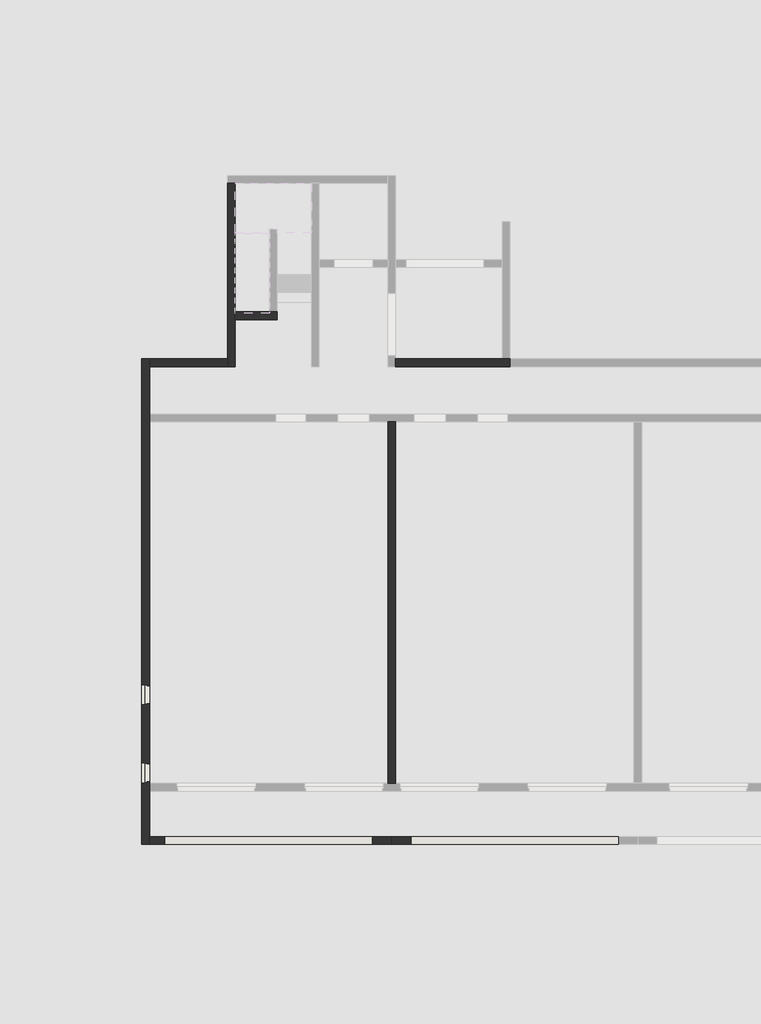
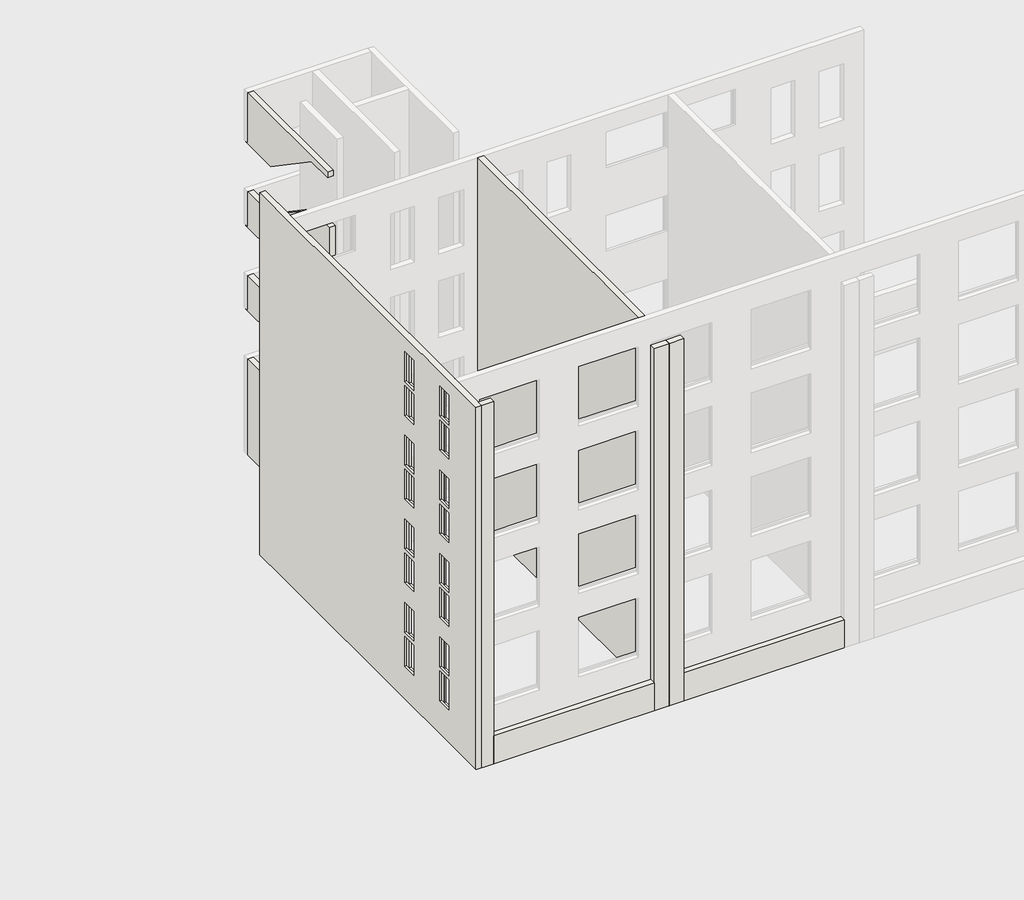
# One storey, part 1 of 5: 11 walls.
"""IFC4 building model written with IfcOpenShell, lengths in millimetres."""

from ifc_helpers import new_model, si_unit, frame, origin, origin_with_axes, place, context, project, spatial, polyline, outline, extrude, faceted_brep, element, save

model = new_model("IFC4")

# Units and contexts
model_context = context("Model", 3, world=origin())
ifc_project = project(units=[si_unit("LENGTHUNIT", "METRE", prefix="MILLI")], contexts=[model_context])

# Site, building, storey
site = spatial("IfcSite", under=ifc_project)
building = spatial("IfcBuilding", under=site)
storey = spatial("IfcBuildingStorey", under=building, Name="設計GL", Elevation=0.0)

# Walls
placement = place(None, origin())
element("IfcWall", 1, ObjectType="(R)RC200", at=placement, inside=storey, context=model_context, shape_type="Brep", body=[
    faceted_brep([(-11078.7187246, -16870.1171638, -1200.0), (-11078.7187246, -16670.1171638, -1200.0), (-11078.7187246, -15470.1171638, -1200.0), (-11078.7187246, -15270.1171638, -1200.0), (-11078.7187246, -5800.1171638, -1200.0), (-11078.7187246, -5600.1171638, -1200.0), (-11078.7187246, -4150.1171638, -1200.0), (-11078.7187246, -4150.1171638, 0.0), (-11078.7187246, -4150.1171638, 2100.0), (-11078.7187246, -4150.1171638, 3800.0), (-11078.7187246, -4150.1171638, 5100.0), (-11078.7187246, -4150.1171638, 6800.0), (-11078.7187246, -4150.1171638, 8100.0), (-11078.7187246, -4150.1171638, 9800.0), (-11078.7187246, -4150.1171638, 11100.0), (-11078.7187246, -4150.1171638, 13000.0), (-11078.7187246, -5600.1171638, 13000.0), (-11078.7187246, -5800.1171638, 13000.0), (-11078.7187246, -9720.1171638, 13000.0), (-11078.7187246, -9920.1171638, 13000.0), (-11078.7187246, -15270.1171638, 13000.0), (-11078.7187246, -15470.1171638, 13000.0), (-11078.7187246, -16670.1171638, 13000.0), (-11078.7187246, -16870.1171638, 13000.0), (-11078.7187246, -14760.1171638, 1085.0), (-11078.7187246, -15230.1171638, 1085.0), (-11078.7187246, -15230.1171638, 2220.0), (-11078.7187246, -14760.1171638, 2220.0), (-11078.7187246, -12710.1171638, 1085.0), (-11078.7187246, -13180.1171638, 1085.0), (-11078.7187246, -13180.1171638, 2220.0), (-11078.7187246, -12710.1171638, 2220.0), (-11078.7187246, -12710.1171638, 2305.0), (-11078.7187246, -13180.1171638, 2305.0), (-11078.7187246, -13180.1171638, 3440.0), (-11078.7187246, -12710.1171638, 3440.0), (-11078.7187246, -14760.1171638, 2305.0), (-11078.7187246, -15230.1171638, 2305.0), (-11078.7187246, -15230.1171638, 3440.0), (-11078.7187246, -14760.1171638, 3440.0), (-11078.7187246, -12710.1171638, 5305.0), (-11078.7187246, -13180.1171638, 5305.0), (-11078.7187246, -13180.1171638, 6440.0), (-11078.7187246, -12710.1171638, 6440.0), (-11078.7187246, -14760.1171638, 5305.0), (-11078.7187246, -15230.1171638, 5305.0), (-11078.7187246, -15230.1171638, 6440.0), (-11078.7187246, -14760.1171638, 6440.0), (-11078.7187246, -12710.1171638, 4085.0), (-11078.7187246, -13180.1171638, 4085.0), (-11078.7187246, -13180.1171638, 5220.0), (-11078.7187246, -12710.1171638, 5220.0), (-11078.7187246, -14760.1171638, 4085.0), (-11078.7187246, -15230.1171638, 4085.0), (-11078.7187246, -15230.1171638, 5220.0), (-11078.7187246, -14760.1171638, 5220.0), (-11078.7187246, -12710.1171638, 8305.0), (-11078.7187246, -13180.1171638, 8305.0), (-11078.7187246, -13180.1171638, 9440.0), (-11078.7187246, -12710.1171638, 9440.0), (-11078.7187246, -14760.1171638, 8305.0), (-11078.7187246, -15230.1171638, 8305.0), (-11078.7187246, -15230.1171638, 9440.0), (-11078.7187246, -14760.1171638, 9440.0), (-11078.7187246, -12710.1171638, 7085.0), (-11078.7187246, -13180.1171638, 7085.0), (-11078.7187246, -13180.1171638, 8220.0), (-11078.7187246, -12710.1171638, 8220.0), (-11078.7187246, -14760.1171638, 7085.0), (-11078.7187246, -15230.1171638, 7085.0), (-11078.7187246, -15230.1171638, 8220.0), (-11078.7187246, -14760.1171638, 8220.0), (-11078.7187246, -12710.1171638, 11305.0), (-11078.7187246, -13180.1171638, 11305.0), (-11078.7187246, -13180.1171638, 12440.0), (-11078.7187246, -12710.1171638, 12440.0), (-11078.7187246, -14760.1171638, 11305.0), (-11078.7187246, -15230.1171638, 11305.0), (-11078.7187246, -15230.1171638, 12440.0), (-11078.7187246, -14760.1171638, 12440.0), (-11078.7187246, -12710.1171638, 10085.0), (-11078.7187246, -13180.1171638, 10085.0), (-11078.7187246, -13180.1171638, 11220.0), (-11078.7187246, -12710.1171638, 11220.0), (-11078.7187246, -14760.1171638, 10085.0), (-11078.7187246, -15230.1171638, 10085.0), (-11078.7187246, -15230.1171638, 11220.0), (-11078.7187246, -14760.1171638, 11220.0), (-11278.7187246, -16870.1171638, -1200.0), (-11278.7187246, -16870.1171638, 13000.0), (-11278.7187246, -4150.1171638, 13000.0), (-11278.7187246, -4150.1171638, -1200.0), (-11278.7187246, -15260.1171638, 2245.0), (-11278.7187246, -15260.1171638, 1175.0), (-11278.7187246, -14730.1171638, 1175.0), (-11278.7187246, -14730.1171638, 2245.0), (-11278.7187246, -13210.1171638, 2245.0), (-11278.7187246, -13210.1171638, 1175.0), (-11278.7187246, -12680.1171638, 1175.0), (-11278.7187246, -12680.1171638, 2245.0), (-11278.7187246, -12680.1171638, 2395.0), (-11278.7187246, -12680.1171638, 3465.0), (-11278.7187246, -13210.1171638, 3465.0), (-11278.7187246, -13210.1171638, 2395.0), (-11278.7187246, -14730.1171638, 2395.0), (-11278.7187246, -14730.1171638, 3465.0), (-11278.7187246, -15260.1171638, 3465.0), (-11278.7187246, -15260.1171638, 2395.0), (-11278.7187246, -12680.1171638, 5395.0), (-11278.7187246, -12680.1171638, 6465.0), (-11278.7187246, -13210.1171638, 6465.0), (-11278.7187246, -13210.1171638, 5395.0), (-11278.7187246, -14730.1171638, 5395.0), (-11278.7187246, -14730.1171638, 6465.0), (-11278.7187246, -15260.1171638, 6465.0), (-11278.7187246, -15260.1171638, 5395.0), (-11278.7187246, -13210.1171638, 5245.0), (-11278.7187246, -13210.1171638, 4175.0), (-11278.7187246, -12680.1171638, 4175.0), (-11278.7187246, -12680.1171638, 5245.0), (-11278.7187246, -15260.1171638, 5245.0), (-11278.7187246, -15260.1171638, 4175.0), (-11278.7187246, -14730.1171638, 4175.0), (-11278.7187246, -14730.1171638, 5245.0), (-11278.7187246, -12680.1171638, 8395.0), (-11278.7187246, -12680.1171638, 9465.0), (-11278.7187246, -13210.1171638, 9465.0), (-11278.7187246, -13210.1171638, 8395.0), (-11278.7187246, -14730.1171638, 8395.0), (-11278.7187246, -14730.1171638, 9465.0), (-11278.7187246, -15260.1171638, 9465.0), (-11278.7187246, -15260.1171638, 8395.0), (-11278.7187246, -13210.1171638, 8245.0), (-11278.7187246, -13210.1171638, 7175.0), (-11278.7187246, -12680.1171638, 7175.0), (-11278.7187246, -12680.1171638, 8245.0), (-11278.7187246, -15260.1171638, 8245.0), (-11278.7187246, -15260.1171638, 7175.0), (-11278.7187246, -14730.1171638, 7175.0), (-11278.7187246, -14730.1171638, 8245.0), (-11278.7187246, -12680.1171638, 11395.0), (-11278.7187246, -12680.1171638, 12465.0), (-11278.7187246, -13210.1171638, 12465.0), (-11278.7187246, -13210.1171638, 11395.0), (-11278.7187246, -14730.1171638, 11395.0), (-11278.7187246, -14730.1171638, 12465.0), (-11278.7187246, -15260.1171638, 12465.0), (-11278.7187246, -15260.1171638, 11395.0), (-11278.7187246, -13210.1171638, 11245.0), (-11278.7187246, -13210.1171638, 10175.0), (-11278.7187246, -12680.1171638, 10175.0), (-11278.7187246, -12680.1171638, 11245.0), (-11278.7187246, -15260.1171638, 11245.0), (-11278.7187246, -15260.1171638, 10175.0), (-11278.7187246, -14730.1171638, 10175.0), (-11278.7187246, -14730.1171638, 11245.0), (-11208.7187246, -15260.1171638, 2245.0), (-11208.7187246, -15260.1171638, 1175.0), (-11208.7187246, -14730.1171638, 1175.0), (-11208.7187246, -14730.1171638, 2245.0), (-11208.7187246, -15250.1171638, 1175.0), (-11208.7187246, -14740.1171638, 1175.0), (-11208.7187246, -14740.1171638, 2240.0), (-11208.7187246, -15250.1171638, 2240.0), (-11138.7187246, -15250.1171638, 2240.0), (-11138.7187246, -15250.1171638, 1094.2307692), (-11208.7187246, -15250.1171638, 1105.0), (-11208.7187246, -14740.1171638, 1105.0), (-11138.7187246, -14740.1171638, 1094.2307692), (-11138.7187246, -14740.1171638, 2240.0), (-11138.7187246, -15230.1171638, 1094.2307692), (-11138.7187246, -14760.1171638, 1094.2307692), (-11138.7187246, -14760.1171638, 2220.0), (-11138.7187246, -15230.1171638, 2220.0), (-11208.7187246, -13210.1171638, 2245.0), (-11208.7187246, -13210.1171638, 1175.0), (-11208.7187246, -12680.1171638, 1175.0), (-11208.7187246, -12680.1171638, 2245.0), (-11208.7187246, -13200.1171638, 1175.0), (-11208.7187246, -12690.1171638, 1175.0), (-11208.7187246, -12690.1171638, 2240.0), (-11208.7187246, -13200.1171638, 2240.0), (-11138.7187246, -13200.1171638, 2240.0), (-11138.7187246, -13200.1171638, 1094.2307692), (-11208.7187246, -13200.1171638, 1105.0), (-11208.7187246, -12690.1171638, 1105.0), (-11138.7187246, -12690.1171638, 1094.2307692), (-11138.7187246, -12690.1171638, 2240.0), (-11138.7187246, -13180.1171638, 1094.2307692), (-11138.7187246, -12710.1171638, 1094.2307692), (-11138.7187246, -12710.1171638, 2220.0), (-11138.7187246, -13180.1171638, 2220.0), (-11208.7187246, -12680.1171638, 3465.0), (-11208.7187246, -12680.1171638, 2395.0), (-11208.7187246, -13210.1171638, 2395.0), (-11208.7187246, -13210.1171638, 3465.0), (-11208.7187246, -13200.1171638, 2395.0), (-11208.7187246, -12690.1171638, 2395.0), (-11208.7187246, -12690.1171638, 3460.0), (-11208.7187246, -13200.1171638, 3460.0), (-11208.7187246, -12690.1171638, 2325.0), (-11138.7187246, -12690.1171638, 2314.2307692), (-11138.7187246, -12690.1171638, 3460.0), (-11208.7187246, -13200.1171638, 2325.0), (-11138.7187246, -13200.1171638, 3460.0), (-11138.7187246, -13200.1171638, 2314.2307692), (-11138.7187246, -13180.1171638, 2314.2307692), (-11138.7187246, -12710.1171638, 2314.2307692), (-11138.7187246, -12710.1171638, 3440.0), (-11138.7187246, -13180.1171638, 3440.0), (-11208.7187246, -14730.1171638, 3465.0), (-11208.7187246, -14730.1171638, 2395.0), (-11208.7187246, -15260.1171638, 2395.0), (-11208.7187246, -15260.1171638, 3465.0), (-11208.7187246, -15250.1171638, 2395.0), (-11208.7187246, -14740.1171638, 2395.0), (-11208.7187246, -14740.1171638, 3460.0), (-11208.7187246, -15250.1171638, 3460.0), (-11208.7187246, -14740.1171638, 2325.0), (-11138.7187246, -14740.1171638, 2314.2307692), (-11138.7187246, -14740.1171638, 3460.0), (-11208.7187246, -15250.1171638, 2325.0), (-11138.7187246, -15250.1171638, 3460.0), (-11138.7187246, -15250.1171638, 2314.2307692), (-11138.7187246, -15230.1171638, 2314.2307692), (-11138.7187246, -14760.1171638, 2314.2307692), (-11138.7187246, -14760.1171638, 3440.0), (-11138.7187246, -15230.1171638, 3440.0), (-11208.7187246, -12680.1171638, 6465.0), (-11208.7187246, -12680.1171638, 5395.0), (-11208.7187246, -13210.1171638, 5395.0), (-11208.7187246, -13210.1171638, 6465.0), (-11208.7187246, -13200.1171638, 5395.0), (-11208.7187246, -12690.1171638, 5395.0), (-11208.7187246, -12690.1171638, 6460.0), (-11208.7187246, -13200.1171638, 6460.0), (-11208.7187246, -12690.1171638, 5325.0), (-11138.7187246, -12690.1171638, 5314.2307692), (-11138.7187246, -12690.1171638, 6460.0), (-11208.7187246, -13200.1171638, 5325.0), (-11138.7187246, -13200.1171638, 6460.0), (-11138.7187246, -13200.1171638, 5314.2307692), (-11138.7187246, -13180.1171638, 5314.2307692), (-11138.7187246, -12710.1171638, 5314.2307692), (-11138.7187246, -12710.1171638, 6440.0), (-11138.7187246, -13180.1171638, 6440.0), (-11208.7187246, -14730.1171638, 6465.0), (-11208.7187246, -14730.1171638, 5395.0), (-11208.7187246, -15260.1171638, 5395.0), (-11208.7187246, -15260.1171638, 6465.0), (-11208.7187246, -15250.1171638, 5395.0), (-11208.7187246, -14740.1171638, 5395.0), (-11208.7187246, -14740.1171638, 6460.0), (-11208.7187246, -15250.1171638, 6460.0), (-11208.7187246, -14740.1171638, 5325.0), (-11138.7187246, -14740.1171638, 5314.2307692), (-11138.7187246, -14740.1171638, 6460.0), (-11208.7187246, -15250.1171638, 5325.0), (-11138.7187246, -15250.1171638, 6460.0), (-11138.7187246, -15250.1171638, 5314.2307692), (-11138.7187246, -15230.1171638, 5314.2307692), (-11138.7187246, -14760.1171638, 5314.2307692), (-11138.7187246, -14760.1171638, 6440.0), (-11138.7187246, -15230.1171638, 6440.0), (-11208.7187246, -13210.1171638, 5245.0), (-11208.7187246, -13210.1171638, 4175.0), (-11208.7187246, -12680.1171638, 4175.0), (-11208.7187246, -12680.1171638, 5245.0), (-11208.7187246, -13200.1171638, 4175.0), (-11208.7187246, -12690.1171638, 4175.0), (-11208.7187246, -12690.1171638, 5240.0), (-11208.7187246, -13200.1171638, 5240.0), (-11138.7187246, -13200.1171638, 5240.0), (-11138.7187246, -13200.1171638, 4094.2307692), (-11208.7187246, -13200.1171638, 4105.0), (-11208.7187246, -12690.1171638, 4105.0), (-11138.7187246, -12690.1171638, 4094.2307692), (-11138.7187246, -12690.1171638, 5240.0), (-11138.7187246, -13180.1171638, 4094.2307692), (-11138.7187246, -12710.1171638, 4094.2307692), (-11138.7187246, -12710.1171638, 5220.0), (-11138.7187246, -13180.1171638, 5220.0), (-11208.7187246, -15260.1171638, 5245.0), (-11208.7187246, -15260.1171638, 4175.0), (-11208.7187246, -14730.1171638, 4175.0), (-11208.7187246, -14730.1171638, 5245.0), (-11208.7187246, -15250.1171638, 4175.0), (-11208.7187246, -14740.1171638, 4175.0), (-11208.7187246, -14740.1171638, 5240.0), (-11208.7187246, -15250.1171638, 5240.0), (-11138.7187246, -15250.1171638, 5240.0), (-11138.7187246, -15250.1171638, 4094.2307692), (-11208.7187246, -15250.1171638, 4105.0), (-11208.7187246, -14740.1171638, 4105.0), (-11138.7187246, -14740.1171638, 4094.2307692), (-11138.7187246, -14740.1171638, 5240.0), (-11138.7187246, -15230.1171638, 4094.2307692), (-11138.7187246, -14760.1171638, 4094.2307692), (-11138.7187246, -14760.1171638, 5220.0), (-11138.7187246, -15230.1171638, 5220.0), (-11208.7187246, -12680.1171638, 9465.0), (-11208.7187246, -12680.1171638, 8395.0), (-11208.7187246, -13210.1171638, 8395.0), (-11208.7187246, -13210.1171638, 9465.0), (-11208.7187246, -13200.1171638, 8395.0), (-11208.7187246, -12690.1171638, 8395.0), (-11208.7187246, -12690.1171638, 9460.0), (-11208.7187246, -13200.1171638, 9460.0), (-11208.7187246, -12690.1171638, 8325.0), (-11138.7187246, -12690.1171638, 8314.2307692), (-11138.7187246, -12690.1171638, 9460.0), (-11208.7187246, -13200.1171638, 8325.0), (-11138.7187246, -13200.1171638, 9460.0), (-11138.7187246, -13200.1171638, 8314.2307692), (-11138.7187246, -13180.1171638, 8314.2307692), (-11138.7187246, -12710.1171638, 8314.2307692), (-11138.7187246, -12710.1171638, 9440.0), (-11138.7187246, -13180.1171638, 9440.0), (-11208.7187246, -14730.1171638, 9465.0), (-11208.7187246, -14730.1171638, 8395.0), (-11208.7187246, -15260.1171638, 8395.0), (-11208.7187246, -15260.1171638, 9465.0), (-11208.7187246, -15250.1171638, 8395.0), (-11208.7187246, -14740.1171638, 8395.0), (-11208.7187246, -14740.1171638, 9460.0), (-11208.7187246, -15250.1171638, 9460.0), (-11208.7187246, -14740.1171638, 8325.0), (-11138.7187246, -14740.1171638, 8314.2307692), (-11138.7187246, -14740.1171638, 9460.0), (-11208.7187246, -15250.1171638, 8325.0), (-11138.7187246, -15250.1171638, 9460.0), (-11138.7187246, -15250.1171638, 8314.2307692), (-11138.7187246, -15230.1171638, 8314.2307692), (-11138.7187246, -14760.1171638, 8314.2307692), (-11138.7187246, -14760.1171638, 9440.0), (-11138.7187246, -15230.1171638, 9440.0), (-11208.7187246, -13210.1171638, 8245.0), (-11208.7187246, -13210.1171638, 7175.0), (-11208.7187246, -12680.1171638, 7175.0), (-11208.7187246, -12680.1171638, 8245.0), (-11208.7187246, -13200.1171638, 7175.0), (-11208.7187246, -12690.1171638, 7175.0), (-11208.7187246, -12690.1171638, 8240.0), (-11208.7187246, -13200.1171638, 8240.0), (-11138.7187246, -13200.1171638, 8240.0), (-11138.7187246, -13200.1171638, 7094.2307692), (-11208.7187246, -13200.1171638, 7105.0), (-11208.7187246, -12690.1171638, 7105.0), (-11138.7187246, -12690.1171638, 7094.2307692), (-11138.7187246, -12690.1171638, 8240.0), (-11138.7187246, -13180.1171638, 7094.2307692), (-11138.7187246, -12710.1171638, 7094.2307692), (-11138.7187246, -12710.1171638, 8220.0), (-11138.7187246, -13180.1171638, 8220.0), (-11208.7187246, -15260.1171638, 8245.0), (-11208.7187246, -15260.1171638, 7175.0), (-11208.7187246, -14730.1171638, 7175.0), (-11208.7187246, -14730.1171638, 8245.0), (-11208.7187246, -15250.1171638, 7175.0), (-11208.7187246, -14740.1171638, 7175.0), (-11208.7187246, -14740.1171638, 8240.0), (-11208.7187246, -15250.1171638, 8240.0), (-11138.7187246, -15250.1171638, 8240.0), (-11138.7187246, -15250.1171638, 7094.2307692), (-11208.7187246, -15250.1171638, 7105.0), (-11208.7187246, -14740.1171638, 7105.0), (-11138.7187246, -14740.1171638, 7094.2307692), (-11138.7187246, -14740.1171638, 8240.0), (-11138.7187246, -15230.1171638, 7094.2307692), (-11138.7187246, -14760.1171638, 7094.2307692), (-11138.7187246, -14760.1171638, 8220.0), (-11138.7187246, -15230.1171638, 8220.0), (-11208.7187246, -12680.1171638, 12465.0), (-11208.7187246, -12680.1171638, 11395.0), (-11208.7187246, -13210.1171638, 11395.0), (-11208.7187246, -13210.1171638, 12465.0), (-11208.7187246, -13200.1171638, 11395.0), (-11208.7187246, -12690.1171638, 11395.0), (-11208.7187246, -12690.1171638, 12460.0), (-11208.7187246, -13200.1171638, 12460.0), (-11208.7187246, -12690.1171638, 11325.0), (-11138.7187246, -12690.1171638, 11314.2307692), (-11138.7187246, -12690.1171638, 12460.0), (-11208.7187246, -13200.1171638, 11325.0), (-11138.7187246, -13200.1171638, 12460.0), (-11138.7187246, -13200.1171638, 11314.2307692), (-11138.7187246, -13180.1171638, 11314.2307692), (-11138.7187246, -12710.1171638, 11314.2307692), (-11138.7187246, -12710.1171638, 12440.0), (-11138.7187246, -13180.1171638, 12440.0), (-11208.7187246, -14730.1171638, 12465.0), (-11208.7187246, -14730.1171638, 11395.0), (-11208.7187246, -15260.1171638, 11395.0), (-11208.7187246, -15260.1171638, 12465.0), (-11208.7187246, -15250.1171638, 11395.0), (-11208.7187246, -14740.1171638, 11395.0), (-11208.7187246, -14740.1171638, 12460.0), (-11208.7187246, -15250.1171638, 12460.0), (-11208.7187246, -14740.1171638, 11325.0), (-11138.7187246, -14740.1171638, 11314.2307692), (-11138.7187246, -14740.1171638, 12460.0), (-11208.7187246, -15250.1171638, 11325.0), (-11138.7187246, -15250.1171638, 12460.0), (-11138.7187246, -15250.1171638, 11314.2307692), (-11138.7187246, -15230.1171638, 11314.2307692), (-11138.7187246, -14760.1171638, 11314.2307692), (-11138.7187246, -14760.1171638, 12440.0), (-11138.7187246, -15230.1171638, 12440.0), (-11208.7187246, -13210.1171638, 11245.0), (-11208.7187246, -13210.1171638, 10175.0), (-11208.7187246, -12680.1171638, 10175.0), (-11208.7187246, -12680.1171638, 11245.0), (-11208.7187246, -13200.1171638, 10175.0), (-11208.7187246, -12690.1171638, 10175.0), (-11208.7187246, -12690.1171638, 11240.0), (-11208.7187246, -13200.1171638, 11240.0), (-11138.7187246, -13200.1171638, 11240.0), (-11138.7187246, -13200.1171638, 10094.2307692), (-11208.7187246, -13200.1171638, 10105.0), (-11208.7187246, -12690.1171638, 10105.0), (-11138.7187246, -12690.1171638, 10094.2307692), (-11138.7187246, -12690.1171638, 11240.0), (-11138.7187246, -13180.1171638, 10094.2307692), (-11138.7187246, -12710.1171638, 10094.2307692), (-11138.7187246, -12710.1171638, 11220.0), (-11138.7187246, -13180.1171638, 11220.0), (-11208.7187246, -15260.1171638, 11245.0), (-11208.7187246, -15260.1171638, 10175.0), (-11208.7187246, -14730.1171638, 10175.0), (-11208.7187246, -14730.1171638, 11245.0), (-11208.7187246, -15250.1171638, 10175.0), (-11208.7187246, -14740.1171638, 10175.0), (-11208.7187246, -14740.1171638, 11240.0), (-11208.7187246, -15250.1171638, 11240.0), (-11138.7187246, -15250.1171638, 11240.0), (-11138.7187246, -15250.1171638, 10094.2307692), (-11208.7187246, -15250.1171638, 10105.0), (-11208.7187246, -14740.1171638, 10105.0), (-11138.7187246, -14740.1171638, 10094.2307692), (-11138.7187246, -14740.1171638, 11240.0), (-11138.7187246, -15230.1171638, 10094.2307692), (-11138.7187246, -14760.1171638, 10094.2307692), (-11138.7187246, -14760.1171638, 11220.0), (-11138.7187246, -15230.1171638, 11220.0)], [[[0, 1, 2, 3, 4, 5, 6, 7, 8, 9, 10, 11, 12, 13, 14, 15, 16, 17, 18, 19, 20, 21, 22, 23], [24, 25, 26, 27], [28, 29, 30, 31], [32, 33, 34, 35], [36, 37, 38, 39], [40, 41, 42, 43], [44, 45, 46, 47], [48, 49, 50, 51], [52, 53, 54, 55], [56, 57, 58, 59], [60, 61, 62, 63], [64, 65, 66, 67], [68, 69, 70, 71], [72, 73, 74, 75], [76, 77, 78, 79], [80, 81, 82, 83], [84, 85, 86, 87]], [[88, 89, 90, 91], [92, 93, 94, 95], [96, 97, 98, 99], [100, 101, 102, 103], [104, 105, 106, 107], [108, 109, 110, 111], [112, 113, 114, 115], [116, 117, 118, 119], [120, 121, 122, 123], [124, 125, 126, 127], [128, 129, 130, 131], [132, 133, 134, 135], [136, 137, 138, 139], [140, 141, 142, 143], [144, 145, 146, 147], [148, 149, 150, 151], [152, 153, 154, 155]], [[6, 5, 4, 3, 2, 1, 0, 88, 91]], [[23, 22, 21, 20, 19, 18, 17, 16, 15, 90, 89]], [[156, 157, 93, 92]], [[158, 159, 95, 94]], [[93, 157, 160, 161, 158, 94]], [[157, 156, 159, 158, 161, 162, 163, 160]], [[159, 156, 92, 95]], [[163, 164, 165, 166, 160]], [[167, 168, 169, 162, 161]], [[166, 165, 170, 25, 24, 171, 168, 167]], [[165, 164, 169, 168, 171, 172, 173, 170]], [[164, 163, 162, 169]], [[166, 167, 161, 160]], [[173, 26, 25, 170]], [[171, 24, 27, 172]], [[26, 173, 172, 27]], [[174, 175, 97, 96]], [[176, 177, 99, 98]], [[97, 175, 178, 179, 176, 98]], [[175, 174, 177, 176, 179, 180, 181, 178]], [[177, 174, 96, 99]], [[181, 182, 183, 184, 178]], [[185, 186, 187, 180, 179]], [[184, 183, 188, 29, 28, 189, 186, 185]], [[183, 182, 187, 186, 189, 190, 191, 188]], [[182, 181, 180, 187]], [[184, 185, 179, 178]], [[191, 30, 29, 188]], [[189, 28, 31, 190]], [[30, 191, 190, 31]], [[192, 101, 100, 193]], [[194, 103, 102, 195]], [[100, 103, 194, 196, 197, 193]], [[193, 197, 198, 199, 196, 194, 195, 192]], [[195, 102, 101, 192]], [[198, 197, 200, 201, 202]], [[203, 196, 199, 204, 205]], [[200, 203, 205, 206, 33, 32, 207, 201]], [[201, 207, 208, 209, 206, 205, 204, 202]], [[202, 204, 199, 198]], [[200, 197, 196, 203]], [[208, 207, 32, 35]], [[206, 209, 34, 33]], [[35, 34, 209, 208]], [[210, 105, 104, 211]], [[212, 107, 106, 213]], [[104, 107, 212, 214, 215, 211]], [[211, 215, 216, 217, 214, 212, 213, 210]], [[213, 106, 105, 210]], [[216, 215, 218, 219, 220]], [[221, 214, 217, 222, 223]], [[218, 221, 223, 224, 37, 36, 225, 219]], [[219, 225, 226, 227, 224, 223, 222, 220]], [[220, 222, 217, 216]], [[218, 215, 214, 221]], [[226, 225, 36, 39]], [[224, 227, 38, 37]], [[39, 38, 227, 226]], [[0, 23, 89, 88]], [[228, 109, 108, 229]], [[230, 111, 110, 231]], [[108, 111, 230, 232, 233, 229]], [[229, 233, 234, 235, 232, 230, 231, 228]], [[231, 110, 109, 228]], [[234, 233, 236, 237, 238]], [[239, 232, 235, 240, 241]], [[236, 239, 241, 242, 41, 40, 243, 237]], [[237, 243, 244, 245, 242, 241, 240, 238]], [[238, 240, 235, 234]], [[236, 233, 232, 239]], [[244, 243, 40, 43]], [[242, 245, 42, 41]], [[43, 42, 245, 244]], [[246, 113, 112, 247]], [[248, 115, 114, 249]], [[112, 115, 248, 250, 251, 247]], [[247, 251, 252, 253, 250, 248, 249, 246]], [[249, 114, 113, 246]], [[252, 251, 254, 255, 256]], [[257, 250, 253, 258, 259]], [[254, 257, 259, 260, 45, 44, 261, 255]], [[255, 261, 262, 263, 260, 259, 258, 256]], [[256, 258, 253, 252]], [[254, 251, 250, 257]], [[262, 261, 44, 47]], [[260, 263, 46, 45]], [[47, 46, 263, 262]], [[264, 265, 117, 116]], [[266, 267, 119, 118]], [[117, 265, 268, 269, 266, 118]], [[265, 264, 267, 266, 269, 270, 271, 268]], [[267, 264, 116, 119]], [[271, 272, 273, 274, 268]], [[275, 276, 277, 270, 269]], [[274, 273, 278, 49, 48, 279, 276, 275]], [[273, 272, 277, 276, 279, 280, 281, 278]], [[272, 271, 270, 277]], [[274, 275, 269, 268]], [[281, 50, 49, 278]], [[279, 48, 51, 280]], [[50, 281, 280, 51]], [[282, 283, 121, 120]], [[284, 285, 123, 122]], [[121, 283, 286, 287, 284, 122]], [[283, 282, 285, 284, 287, 288, 289, 286]], [[285, 282, 120, 123]], [[289, 290, 291, 292, 286]], [[293, 294, 295, 288, 287]], [[292, 291, 296, 53, 52, 297, 294, 293]], [[291, 290, 295, 294, 297, 298, 299, 296]], [[290, 289, 288, 295]], [[292, 293, 287, 286]], [[299, 54, 53, 296]], [[297, 52, 55, 298]], [[54, 299, 298, 55]], [[300, 125, 124, 301]], [[302, 127, 126, 303]], [[124, 127, 302, 304, 305, 301]], [[301, 305, 306, 307, 304, 302, 303, 300]], [[303, 126, 125, 300]], [[306, 305, 308, 309, 310]], [[311, 304, 307, 312, 313]], [[308, 311, 313, 314, 57, 56, 315, 309]], [[309, 315, 316, 317, 314, 313, 312, 310]], [[310, 312, 307, 306]], [[308, 305, 304, 311]], [[316, 315, 56, 59]], [[314, 317, 58, 57]], [[59, 58, 317, 316]], [[318, 129, 128, 319]], [[320, 131, 130, 321]], [[128, 131, 320, 322, 323, 319]], [[319, 323, 324, 325, 322, 320, 321, 318]], [[321, 130, 129, 318]], [[324, 323, 326, 327, 328]], [[329, 322, 325, 330, 331]], [[326, 329, 331, 332, 61, 60, 333, 327]], [[327, 333, 334, 335, 332, 331, 330, 328]], [[328, 330, 325, 324]], [[326, 323, 322, 329]], [[334, 333, 60, 63]], [[332, 335, 62, 61]], [[63, 62, 335, 334]], [[336, 337, 133, 132]], [[338, 339, 135, 134]], [[133, 337, 340, 341, 338, 134]], [[337, 336, 339, 338, 341, 342, 343, 340]], [[339, 336, 132, 135]], [[343, 344, 345, 346, 340]], [[347, 348, 349, 342, 341]], [[346, 345, 350, 65, 64, 351, 348, 347]], [[345, 344, 349, 348, 351, 352, 353, 350]], [[344, 343, 342, 349]], [[346, 347, 341, 340]], [[353, 66, 65, 350]], [[351, 64, 67, 352]], [[66, 353, 352, 67]], [[354, 355, 137, 136]], [[356, 357, 139, 138]], [[137, 355, 358, 359, 356, 138]], [[355, 354, 357, 356, 359, 360, 361, 358]], [[357, 354, 136, 139]], [[361, 362, 363, 364, 358]], [[365, 366, 367, 360, 359]], [[364, 363, 368, 69, 68, 369, 366, 365]], [[363, 362, 367, 366, 369, 370, 371, 368]], [[362, 361, 360, 367]], [[364, 365, 359, 358]], [[371, 70, 69, 368]], [[369, 68, 71, 370]], [[70, 371, 370, 71]], [[372, 141, 140, 373]], [[374, 143, 142, 375]], [[140, 143, 374, 376, 377, 373]], [[373, 377, 378, 379, 376, 374, 375, 372]], [[375, 142, 141, 372]], [[378, 377, 380, 381, 382]], [[383, 376, 379, 384, 385]], [[380, 383, 385, 386, 73, 72, 387, 381]], [[381, 387, 388, 389, 386, 385, 384, 382]], [[382, 384, 379, 378]], [[380, 377, 376, 383]], [[388, 387, 72, 75]], [[386, 389, 74, 73]], [[75, 74, 389, 388]], [[390, 145, 144, 391]], [[392, 147, 146, 393]], [[144, 147, 392, 394, 395, 391]], [[391, 395, 396, 397, 394, 392, 393, 390]], [[393, 146, 145, 390]], [[396, 395, 398, 399, 400]], [[401, 394, 397, 402, 403]], [[398, 401, 403, 404, 77, 76, 405, 399]], [[399, 405, 406, 407, 404, 403, 402, 400]], [[400, 402, 397, 396]], [[398, 395, 394, 401]], [[406, 405, 76, 79]], [[404, 407, 78, 77]], [[79, 78, 407, 406]], [[408, 409, 149, 148]], [[410, 411, 151, 150]], [[149, 409, 412, 413, 410, 150]], [[409, 408, 411, 410, 413, 414, 415, 412]], [[411, 408, 148, 151]], [[415, 416, 417, 418, 412]], [[419, 420, 421, 414, 413]], [[418, 417, 422, 81, 80, 423, 420, 419]], [[417, 416, 421, 420, 423, 424, 425, 422]], [[416, 415, 414, 421]], [[418, 419, 413, 412]], [[425, 82, 81, 422]], [[423, 80, 83, 424]], [[82, 425, 424, 83]], [[426, 427, 153, 152]], [[428, 429, 155, 154]], [[153, 427, 430, 431, 428, 154]], [[427, 426, 429, 428, 431, 432, 433, 430]], [[429, 426, 152, 155]], [[433, 434, 435, 436, 430]], [[437, 438, 439, 432, 431]], [[436, 435, 440, 85, 84, 441, 438, 437]], [[435, 434, 439, 438, 441, 442, 443, 440]], [[434, 433, 432, 439]], [[436, 437, 431, 430]], [[443, 86, 85, 440]], [[441, 84, 87, 442]], [[86, 443, 442, 87]], [[6, 91, 90, 15, 14, 13, 12, 11, 10, 9, 8, 7]]]),
])
element("IfcWall", 2, ObjectType="(R)RC200", at=placement, inside=storey, context=model_context, shape_type="Brep", body=[
    faceted_brep([(-4828.7187246, -5800.1171638, -1200.0), (-4828.7187246, -15270.1171638, -1200.0), (-4828.7187246, -15270.1171638, 13000.0), (-4828.7187246, -9920.1171638, 13000.0), (-4828.7187246, -9720.1171638, 13000.0), (-4828.7187246, -5800.1171638, 13000.0), (-4628.7187246, -5800.1171638, -1200.0), (-4628.7187246, -5800.1171638, 13000.0), (-4628.7187246, -9720.1171638, 13000.0), (-4628.7187246, -9920.1171638, 13000.0), (-4628.7187246, -15270.1171638, 13000.0), (-4628.7187246, -15270.1171638, -1200.0)], [[[0, 1, 2, 3, 4, 5]], [[6, 7, 8, 9, 10, 11]], [[1, 0, 6, 11]], [[5, 4, 3, 2, 10, 9, 8, 7]], [[0, 5, 7, 6]], [[2, 1, 11, 10]]]),
])
element("IfcWall", 3, ObjectType="(R)RC200", at=placement, inside=storey, context=model_context, shape_type="SweptSolid", body=[
    extrude(outline(polyline([(-9028.7187246, -4350.1171638), (-11078.7187246, -4350.1171638), (-11078.7187246, -4150.1171638), (-9028.7187246, -4150.1171638), (-9028.7187246, -4350.1171638)])), origin_with_axes(), (0.0, 0.0, 1.0), 2100.0),
])
element("IfcWall", 4, ObjectType="(R)RC200", at=placement, inside=storey, context=model_context, shape_type="Brep", body=[
    faceted_brep([(-11078.7187246, -16870.1171638, -1200.0), (-10678.7187246, -16870.1171638, -1200.0), (-10678.7187246, -16870.1171638, 1000.0), (-10678.7187246, -16870.1171638, 3500.0), (-10678.7187246, -16870.1171638, 4000.0), (-10678.7187246, -16870.1171638, 6500.0), (-10678.7187246, -16870.1171638, 7000.0), (-10678.7187246, -16870.1171638, 9500.0), (-10678.7187246, -16870.1171638, 10000.0), (-10678.7187246, -16870.1171638, 12500.0), (-10678.7187246, -16870.1171638, 13000.0), (-11078.7187246, -16870.1171638, 13000.0), (-11078.7187246, -16670.1171638, -1200.0), (-11078.7187246, -16670.1171638, 13000.0), (-10678.7187246, -16670.1171638, 13000.0), (-10678.7187246, -16670.1171638, 12500.0), (-10678.7187246, -16670.1171638, 10000.0), (-10678.7187246, -16670.1171638, 9500.0), (-10678.7187246, -16670.1171638, 7000.0), (-10678.7187246, -16670.1171638, 6500.0), (-10678.7187246, -16670.1171638, 4000.0), (-10678.7187246, -16670.1171638, 3500.0), (-10678.7187246, -16670.1171638, 1000.0), (-10678.7187246, -16670.1171638, -1200.0)], [[[0, 1, 2, 3, 4, 5, 6, 7, 8, 9, 10, 11]], [[12, 13, 14, 15, 16, 17, 18, 19, 20, 21, 22, 23]], [[1, 0, 12, 23]], [[11, 10, 14, 13]], [[0, 11, 13, 12]], [[1, 23, 22, 21, 20, 19, 18, 17, 16, 15, 14, 10, 9, 8, 7, 6, 5, 4, 3, 2]]]),
])
element("IfcWall", 5, ObjectType="(R)RC200", at=placement, inside=storey, context=model_context, shape_type="SweptSolid", body=[
    extrude(outline(polyline([(-5228.7187246, -16870.1171638), (-10678.7187246, -16870.1171638), (-10678.7187246, -16670.1171638), (-5228.7187246, -16670.1171638), (-5228.7187246, -16870.1171638)])), frame((0.0, 0.0, -1200.0), z_axis=(0.0, 0.0, 1.0), x_axis=(1.0, 0.0, 0.0)), (0.0, 0.0, 1.0), 2200.0),
])
element("IfcWall", 6, ObjectType="(R)RC200", at=placement, inside=storey, context=model_context, shape_type="Brep", body=[
    faceted_brep([(-5228.7187246, -16870.1171638, 13000.0), (-5228.7187246, -16870.1171638, 12500.0), (-5228.7187246, -16870.1171638, 10000.0), (-5228.7187246, -16870.1171638, 9500.0), (-5228.7187246, -16870.1171638, 7000.0), (-5228.7187246, -16870.1171638, 6500.0), (-5228.7187246, -16870.1171638, 4000.0), (-5228.7187246, -16870.1171638, 3500.0), (-5228.7187246, -16870.1171638, 1000.0), (-5228.7187246, -16870.1171638, -1200.0), (-4728.7187246, -16870.1171638, -1200.0), (-4728.7187246, -16870.1171638, 13000.0), (-5228.7187246, -16670.1171638, -1200.0), (-5228.7187246, -16670.1171638, 1000.0), (-5228.7187246, -16670.1171638, 3500.0), (-5228.7187246, -16670.1171638, 4000.0), (-5228.7187246, -16670.1171638, 6500.0), (-5228.7187246, -16670.1171638, 7000.0), (-5228.7187246, -16670.1171638, 9500.0), (-5228.7187246, -16670.1171638, 10000.0), (-5228.7187246, -16670.1171638, 12500.0), (-5228.7187246, -16670.1171638, 13000.0), (-4728.7187246, -16670.1171638, 13000.0), (-4728.7187246, -16670.1171638, -1200.0)], [[[0, 1, 2, 3, 4, 5, 6, 7, 8, 9, 10, 11]], [[12, 13, 14, 15, 16, 17, 18, 19, 20, 21, 22, 23]], [[10, 9, 12, 23]], [[0, 11, 22, 21]], [[10, 23, 22, 11]], [[0, 21, 20, 19, 18, 17, 16, 15, 14, 13, 12, 9, 8, 7, 6, 5, 4, 3, 2, 1]]]),
])
element("IfcWall", 7, ObjectType="(R)RC200", at=placement, inside=storey, context=model_context, shape_type="Brep", body=[
    faceted_brep([(-4728.7187246, -16870.1171638, 13000.0), (-4728.7187246, -16870.1171638, -1200.0), (-4228.7187246, -16870.1171638, -1200.0), (-4228.7187246, -16870.1171638, 1000.0), (-4228.7187246, -16870.1171638, 3500.0), (-4228.7187246, -16870.1171638, 4000.0), (-4228.7187246, -16870.1171638, 6500.0), (-4228.7187246, -16870.1171638, 7000.0), (-4228.7187246, -16870.1171638, 9500.0), (-4228.7187246, -16870.1171638, 10000.0), (-4228.7187246, -16870.1171638, 12500.0), (-4228.7187246, -16870.1171638, 13000.0), (-4728.7187246, -16670.1171638, -1200.0), (-4728.7187246, -16670.1171638, 13000.0), (-4228.7187246, -16670.1171638, 13000.0), (-4228.7187246, -16670.1171638, 12500.0), (-4228.7187246, -16670.1171638, 10000.0), (-4228.7187246, -16670.1171638, 9500.0), (-4228.7187246, -16670.1171638, 7000.0), (-4228.7187246, -16670.1171638, 6500.0), (-4228.7187246, -16670.1171638, 4000.0), (-4228.7187246, -16670.1171638, 3500.0), (-4228.7187246, -16670.1171638, 1000.0), (-4228.7187246, -16670.1171638, -1200.0)], [[[0, 1, 2, 3, 4, 5, 6, 7, 8, 9, 10, 11]], [[12, 13, 14, 15, 16, 17, 18, 19, 20, 21, 22, 23]], [[2, 1, 12, 23]], [[0, 11, 14, 13]], [[0, 13, 12, 1]], [[2, 23, 22, 21, 20, 19, 18, 17, 16, 15, 14, 11, 10, 9, 8, 7, 6, 5, 4, 3]]]),
])
element("IfcWall", 8, ObjectType="(R)RC200", at=placement, inside=storey, context=model_context, shape_type="SweptSolid", body=[
    extrude(outline(polyline([(1221.2812754, -16870.1171638), (-4228.7187246, -16870.1171638), (-4228.7187246, -16670.1171638), (1221.2812754, -16670.1171638), (1221.2812754, -16870.1171638)])), frame((0.0, 0.0, -1200.0), z_axis=(0.0, 0.0, 1.0), x_axis=(1.0, 0.0, 0.0)), (0.0, 0.0, 1.0), 2200.0),
])
element("IfcWall", 9, ObjectType="(R)RC200", at=placement, inside=storey, context=model_context, shape_type="Brep", body=[
    faceted_brep([(-9028.7187246, -4350.1171638, -1200.0), (-9028.7187246, -4350.1171638, 0.0), (-9028.7187246, -4350.1171638, 2100.0), (-9028.7187246, -4350.1171638, 3800.0), (-9028.7187246, -4350.1171638, 5068.2352941), (-9028.7187246, -3300.4145243, 5068.2352941), (-9028.7187246, -916.2145243, 3450.0), (-9028.7187246, 449.8828362, 3450.0), (-9028.7187246, 449.8828362, -1200.0), (-8828.7187246, -4350.1171638, 5068.2352941), (-8828.7187246, -4350.1171638, -1200.0), (-8828.7187246, -3120.1171638, -1200.0), (-8828.7187246, -2920.1171638, -1200.0), (-8828.7187246, 449.8828362, -1200.0), (-8828.7187246, 449.8828362, 3450.0), (-8828.7187246, -916.2145243, 3450.0), (-8828.7187246, -3300.4145243, 5068.2352941)], [[[0, 1, 2, 3, 4, 5, 6, 7, 8]], [[9, 10, 11, 12, 13, 14, 15, 16]], [[0, 10, 9, 4, 3, 2, 1]], [[0, 8, 13, 12, 11, 10]], [[5, 4, 9, 16]], [[6, 5, 16, 15]], [[7, 6, 15, 14]], [[8, 7, 14, 13]]]),
    faceted_brep([(-9028.7187246, 549.8828362, 11181.7647059), (-9028.7187246, -916.2145243, 11181.7647059), (-9028.7187246, -3300.4145243, 12800.0), (-9028.7187246, -4250.1171638, 12800.0), (-9028.7187246, -4250.1171638, 13000.0), (-9028.7187246, 449.8828362, 13000.0), (-9028.7187246, 449.8828362, 11185.2941176), (-9028.7187246, 549.8828362, 11185.2941176), (-8828.7187246, 549.8828362, 11181.7647059), (-8828.7187246, 549.8828362, 11185.2941176), (-8828.7187246, 449.8828362, 11185.2941176), (-8828.7187246, 449.8828362, 13000.0), (-8828.7187246, -4250.1171638, 13000.0), (-8828.7187246, -4250.1171638, 12800.0), (-8828.7187246, -3300.4145243, 12800.0), (-8828.7187246, -916.2145243, 11181.7647059)], [[[0, 1, 2, 3, 4, 5, 6, 7]], [[8, 9, 10, 11, 12, 13, 14, 15]], [[5, 4, 12, 11]], [[0, 7, 9, 8]], [[1, 0, 8, 15]], [[2, 1, 15, 14]], [[3, 2, 14, 13]], [[4, 3, 13, 12]], [[6, 10, 9, 7]], [[6, 5, 11, 10]]]),
    faceted_brep([(-9028.7187246, -916.2145243, 5181.7647059), (-9028.7187246, -3300.4145243, 6800.0), (-9028.7187246, -4150.1171638, 6800.0), (-9028.7187246, -4350.1171638, 6800.0), (-9028.7187246, -4350.1171638, 8068.2352941), (-9028.7187246, -3300.4145243, 8068.2352941), (-9028.7187246, -916.2145243, 6450.0), (-9028.7187246, 449.8828362, 6450.0), (-9028.7187246, 449.8828362, 5185.2941176), (-9028.7187246, 549.8828362, 5185.2941176), (-9028.7187246, 549.8828362, 5181.7647059), (-8828.7187246, -916.2145243, 5181.7647059), (-8828.7187246, 549.8828362, 5181.7647059), (-8828.7187246, 549.8828362, 5185.2941176), (-8828.7187246, 449.8828362, 5185.2941176), (-8828.7187246, 449.8828362, 6450.0), (-8828.7187246, -916.2145243, 6450.0), (-8828.7187246, -3300.4145243, 8068.2352941), (-8828.7187246, -4350.1171638, 8068.2352941), (-8828.7187246, -4350.1171638, 6800.0), (-8828.7187246, -3300.4145243, 6800.0)], [[[0, 1, 2, 3, 4, 5, 6, 7, 8, 9, 10]], [[11, 12, 13, 14, 15, 16, 17, 18, 19, 20]], [[1, 0, 11, 20]], [[3, 2, 1, 20, 19]], [[5, 4, 18, 17]], [[6, 5, 17, 16]], [[7, 6, 16, 15]], [[0, 10, 12, 11]], [[4, 3, 19, 18]], [[10, 9, 13, 12]], [[8, 14, 13, 9]], [[8, 7, 15, 14]]]),
    faceted_brep([(-9028.7187246, -916.2145243, 8181.7647059), (-9028.7187246, -3300.4145243, 9800.0), (-9028.7187246, -4150.1171638, 9800.0), (-9028.7187246, -4350.1171638, 9800.0), (-9028.7187246, -4350.1171638, 11068.2352941), (-9028.7187246, -3300.4145243, 11068.2352941), (-9028.7187246, -916.2145243, 9450.0), (-9028.7187246, 449.8828362, 9450.0), (-9028.7187246, 449.8828362, 8185.2941176), (-9028.7187246, 549.8828362, 8185.2941176), (-9028.7187246, 549.8828362, 8181.7647059), (-8828.7187246, -916.2145243, 8181.7647059), (-8828.7187246, 549.8828362, 8181.7647059), (-8828.7187246, 549.8828362, 8185.2941176), (-8828.7187246, 449.8828362, 8185.2941176), (-8828.7187246, 449.8828362, 9450.0), (-8828.7187246, -916.2145243, 9450.0), (-8828.7187246, -3300.4145243, 11068.2352941), (-8828.7187246, -4350.1171638, 11068.2352941), (-8828.7187246, -4350.1171638, 9800.0), (-8828.7187246, -3300.4145243, 9800.0)], [[[0, 1, 2, 3, 4, 5, 6, 7, 8, 9, 10]], [[11, 12, 13, 14, 15, 16, 17, 18, 19, 20]], [[1, 0, 11, 20]], [[3, 2, 1, 20, 19]], [[5, 4, 18, 17]], [[6, 5, 17, 16]], [[7, 6, 16, 15]], [[0, 10, 12, 11]], [[4, 3, 19, 18]], [[10, 9, 13, 12]], [[8, 14, 13, 9]], [[8, 7, 15, 14]]]),
])
element("IfcWall", 10, ObjectType="(R)RC200", at=placement, inside=storey, context=model_context, shape_type="Brep", body=[
    faceted_brep([(-8828.7187246, -3120.1171638, -1200.0), (-7728.7187246, -3120.1171638, -1200.0), (-7728.7187246, -3120.1171638, 3800.0), (-8828.7187246, -3120.1171638, 3800.0), (-8828.7187246, -2920.1171638, -1200.0), (-8828.7187246, -2920.1171638, 3800.0), (-7728.7187246, -2920.1171638, 3800.0), (-7728.7187246, -2920.1171638, -1200.0), (-7928.7187246, -2920.1171638, -1200.0)], [[[0, 1, 2, 3]], [[4, 5, 6, 7, 8]], [[1, 0, 4, 8, 7]], [[3, 2, 6, 5]], [[0, 3, 5, 4]], [[2, 1, 7, 6]]]),
])
element("IfcWall", 11, ObjectType="(R)RC200", at=placement, inside=storey, context=model_context, shape_type="Brep", body=[
    faceted_brep([(-4628.7187246, -4350.1171638, -1200.0), (-1628.7187246, -4350.1171638, -1200.0), (-1628.7187246, -4350.1171638, 0.0), (-1628.7187246, -4350.1171638, 2100.0), (-1628.7187246, -4350.1171638, 3800.0), (-4628.7187246, -4350.1171638, 3800.0), (-1628.7187246, -4150.1171638, -1200.0), (-1828.7187246, -4150.1171638, -1200.0), (-4628.7187246, -4150.1171638, -1200.0), (-4628.7187246, -4150.1171638, 3800.0), (-1628.7187246, -4150.1171638, 3800.0), (-1628.7187246, -4150.1171638, 2100.0), (-1628.7187246, -4150.1171638, 0.0)], [[[0, 1, 2, 3, 4, 5]], [[6, 7, 8, 9, 10, 11, 12]], [[1, 0, 8, 7, 6]], [[1, 6, 12, 11, 10, 4, 3, 2]], [[8, 0, 5, 9]], [[5, 4, 10, 9]]]),
])

save(model, "model.ifc")
